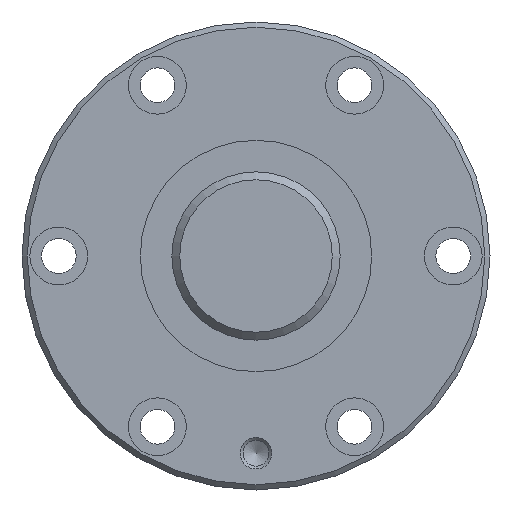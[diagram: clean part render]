
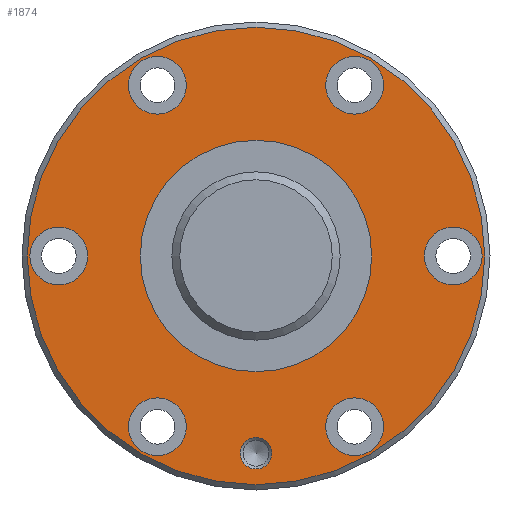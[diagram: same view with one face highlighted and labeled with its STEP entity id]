
A CAD part, left-side view. The second image highlights one B-rep face of the part: STEP entity #1874.
In plain terms, the highlighted planar face has unit normal (-1, 0, 0).
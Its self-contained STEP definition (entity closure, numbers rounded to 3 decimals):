
#452=ORIENTED_EDGE('',*,*,#936,.T.);
#453=ORIENTED_EDGE('',*,*,#937,.T.);
#454=ORIENTED_EDGE('',*,*,#938,.T.);
#455=ORIENTED_EDGE('',*,*,#939,.T.);
#456=ORIENTED_EDGE('',*,*,#940,.T.);
#457=ORIENTED_EDGE('',*,*,#941,.T.);
#458=ORIENTED_EDGE('',*,*,#942,.T.);
#459=ORIENTED_EDGE('',*,*,#943,.T.);
#460=ORIENTED_EDGE('',*,*,#944,.F.);
#936=EDGE_CURVE('',#1179,#1179,#1337,.T.);
#937=EDGE_CURVE('',#1180,#1180,#1338,.T.);
#938=EDGE_CURVE('',#1181,#1181,#1339,.T.);
#939=EDGE_CURVE('',#1182,#1182,#1340,.T.);
#940=EDGE_CURVE('',#1183,#1183,#1341,.T.);
#941=EDGE_CURVE('',#1184,#1184,#1342,.T.);
#942=EDGE_CURVE('',#1185,#1185,#1343,.T.);
#943=EDGE_CURVE('',#1186,#1186,#1344,.T.);
#944=EDGE_CURVE('',#1187,#1187,#1345,.T.);
#1179=VERTEX_POINT('',#2949);
#1180=VERTEX_POINT('',#2951);
#1181=VERTEX_POINT('',#2953);
#1182=VERTEX_POINT('',#2955);
#1183=VERTEX_POINT('',#2957);
#1184=VERTEX_POINT('',#2959);
#1185=VERTEX_POINT('',#2961);
#1186=VERTEX_POINT('',#2963);
#1187=VERTEX_POINT('',#2965);
#1337=CIRCLE('',#2032,22.);
#1338=CIRCLE('',#2033,5.5);
#1339=CIRCLE('',#2034,5.5);
#1340=CIRCLE('',#2035,3.);
#1341=CIRCLE('',#2036,5.5);
#1342=CIRCLE('',#2037,5.5);
#1343=CIRCLE('',#2038,5.5);
#1344=CIRCLE('',#2039,5.5);
#1345=CIRCLE('',#2040,43.5);
#1433=EDGE_LOOP('',(#452));
#1434=EDGE_LOOP('',(#453));
#1435=EDGE_LOOP('',(#454));
#1436=EDGE_LOOP('',(#455));
#1437=EDGE_LOOP('',(#456));
#1438=EDGE_LOOP('',(#457));
#1439=EDGE_LOOP('',(#458));
#1440=EDGE_LOOP('',(#459));
#1441=EDGE_LOOP('',(#460));
#1621=FACE_BOUND('',#1433,.T.);
#1622=FACE_BOUND('',#1434,.T.);
#1623=FACE_BOUND('',#1435,.T.);
#1624=FACE_BOUND('',#1436,.T.);
#1625=FACE_BOUND('',#1437,.T.);
#1626=FACE_BOUND('',#1438,.T.);
#1627=FACE_BOUND('',#1439,.T.);
#1628=FACE_BOUND('',#1440,.T.);
#1629=FACE_BOUND('',#1441,.T.);
#1800=PLANE('',#2031);
#1874=ADVANCED_FACE('',(#1621,#1622,#1623,#1624,#1625,#1626,#1627,#1628,
#1629),#1800,.T.);
#2031=AXIS2_PLACEMENT_3D('',#2947,#2296,#2297);
#2032=AXIS2_PLACEMENT_3D('',#2948,#2298,#2299);
#2033=AXIS2_PLACEMENT_3D('',#2950,#2300,#2301);
#2034=AXIS2_PLACEMENT_3D('',#2952,#2302,#2303);
#2035=AXIS2_PLACEMENT_3D('',#2954,#2304,#2305);
#2036=AXIS2_PLACEMENT_3D('',#2956,#2306,#2307);
#2037=AXIS2_PLACEMENT_3D('',#2958,#2308,#2309);
#2038=AXIS2_PLACEMENT_3D('',#2960,#2310,#2311);
#2039=AXIS2_PLACEMENT_3D('',#2962,#2312,#2313);
#2040=AXIS2_PLACEMENT_3D('',#2964,#2314,#2315);
#2296=DIRECTION('',(-1.,0.,0.));
#2297=DIRECTION('',(0.,0.,1.));
#2298=DIRECTION('',(1.,0.,0.));
#2299=DIRECTION('',(0.,0.,-1.));
#2300=DIRECTION('',(1.,0.,0.));
#2301=DIRECTION('',(0.,0.,-1.));
#2302=DIRECTION('',(1.,0.,0.));
#2303=DIRECTION('',(0.,0.,-1.));
#2304=DIRECTION('',(1.,0.,0.));
#2305=DIRECTION('',(0.,0.,-1.));
#2306=DIRECTION('',(1.,0.,0.));
#2307=DIRECTION('',(0.,0.,-1.));
#2308=DIRECTION('',(1.,0.,0.));
#2309=DIRECTION('',(0.,0.,-1.));
#2310=DIRECTION('',(1.,0.,0.));
#2311=DIRECTION('',(0.,0.,-1.));
#2312=DIRECTION('',(1.,0.,0.));
#2313=DIRECTION('',(0.,0.,-1.));
#2314=DIRECTION('',(1.,0.,0.));
#2315=DIRECTION('',(0.,0.,-1.));
#2947=CARTESIAN_POINT('',(0.,43.5,0.));
#2948=CARTESIAN_POINT('',(0.,0.,0.));
#2949=CARTESIAN_POINT('',(0.,0.,-22.));
#2950=CARTESIAN_POINT('',(0.,-32.476,-18.75));
#2951=CARTESIAN_POINT('',(0.,-32.476,-24.25));
#2952=CARTESIAN_POINT('',(0.,32.476,18.75));
#2953=CARTESIAN_POINT('',(0.,32.476,13.25));
#2954=CARTESIAN_POINT('',(0.,-37.5,0.));
#2955=CARTESIAN_POINT('',(0.,-37.5,-3.));
#2956=CARTESIAN_POINT('',(0.,0.,37.5));
#2957=CARTESIAN_POINT('',(0.,0.,32.));
#2958=CARTESIAN_POINT('',(0.,-32.476,18.75));
#2959=CARTESIAN_POINT('',(0.,-32.476,13.25));
#2960=CARTESIAN_POINT('',(0.,0.,-37.5));
#2961=CARTESIAN_POINT('',(0.,0.,-43.));
#2962=CARTESIAN_POINT('',(0.,32.476,-18.75));
#2963=CARTESIAN_POINT('',(0.,32.476,-24.25));
#2964=CARTESIAN_POINT('',(0.,0.,0.));
#2965=CARTESIAN_POINT('',(0.,0.,-43.5));
